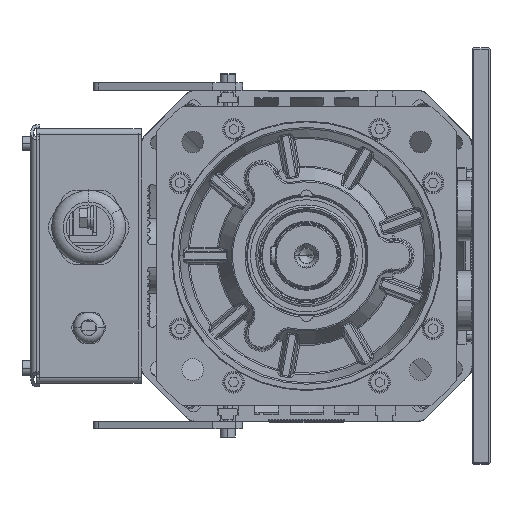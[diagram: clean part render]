
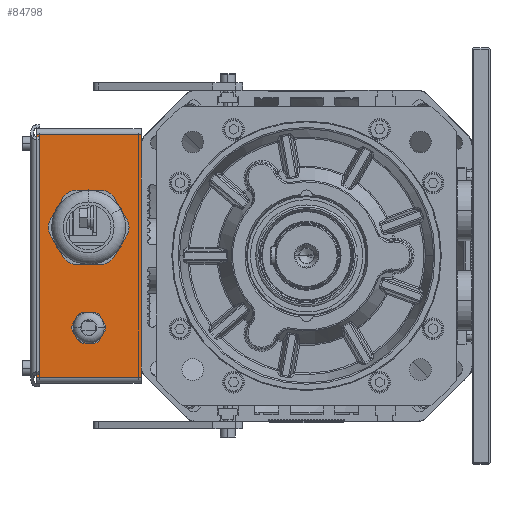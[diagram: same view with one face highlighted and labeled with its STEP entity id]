
A CAD part, left-side view. The second image highlights one B-rep face of the part: STEP entity #84798.
In plain terms, the highlighted planar face has unit normal (-1, 0, 0).
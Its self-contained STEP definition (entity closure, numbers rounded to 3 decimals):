
#82622=DIRECTION('',(0.,0.,1.));
#82623=VECTOR('',#82622,162.);
#82624=CARTESIAN_POINT('',(186.,110.5,-81.));
#82625=LINE('',#82624,#82623);
#82899=CARTESIAN_POINT('',(186.,145.5,-48.));
#82900=DIRECTION('',(-1.,0.,0.));
#82901=DIRECTION('',(0.,1.,0.));
#82902=AXIS2_PLACEMENT_3D('',#82899,#82900,#82901);
#82904=CARTESIAN_POINT('',(186.,145.5,-48.));
#82905=DIRECTION('',(-1.,0.,0.));
#82906=DIRECTION('',(0.,-1.,0.));
#82907=AXIS2_PLACEMENT_3D('',#82904,#82905,#82906);
#82909=CARTESIAN_POINT('',(186.,145.5,19.));
#82910=DIRECTION('',(-1.,0.,0.));
#82911=DIRECTION('',(0.,1.,0.));
#82912=AXIS2_PLACEMENT_3D('',#82909,#82910,#82911);
#82914=CARTESIAN_POINT('',(186.,145.5,19.));
#82915=DIRECTION('',(-1.,0.,0.));
#82916=DIRECTION('',(0.,-1.,0.));
#82917=AXIS2_PLACEMENT_3D('',#82914,#82915,#82916);
#82919=DIRECTION('',(0.,0.,1.));
#82920=VECTOR('',#82919,162.);
#82921=CARTESIAN_POINT('',(186.,180.5,-81.));
#82922=LINE('',#82921,#82920);
#83841=DIRECTION('',(0.,-1.,0.));
#83842=VECTOR('',#83841,70.);
#83843=CARTESIAN_POINT('',(186.,180.5,-81.));
#83844=LINE('',#83843,#83842);
#83861=DIRECTION('',(0.,1.,0.));
#83862=VECTOR('',#83861,70.);
#83863=CARTESIAN_POINT('',(186.,110.5,81.));
#83864=LINE('',#83863,#83862);
#84181=CARTESIAN_POINT('',(186.,155.5,-48.));
#84182=CARTESIAN_POINT('',(186.,135.5,-48.));
#84183=VERTEX_POINT('',#84181);
#84184=VERTEX_POINT('',#84182);
#84185=CARTESIAN_POINT('',(186.,170.5,19.));
#84186=CARTESIAN_POINT('',(186.,120.5,19.));
#84187=VERTEX_POINT('',#84185);
#84188=VERTEX_POINT('',#84186);
#84333=CARTESIAN_POINT('',(186.,110.5,-81.));
#84335=VERTEX_POINT('',#84333);
#84346=CARTESIAN_POINT('',(186.,110.5,81.));
#84348=VERTEX_POINT('',#84346);
#84381=CARTESIAN_POINT('',(186.,180.5,81.));
#84383=VERTEX_POINT('',#84381);
#84394=CARTESIAN_POINT('',(186.,180.5,-81.));
#84396=VERTEX_POINT('',#84394);
#84773=CARTESIAN_POINT('',(186.,110.5,-85.));
#84774=DIRECTION('',(-1.,0.,0.));
#84775=DIRECTION('',(0.,0.,1.));
#84776=AXIS2_PLACEMENT_3D('',#84773,#84774,#84775);
#84777=PLANE('',#84776);
#84779=ORIENTED_EDGE('',*,*,#84778,.F.);
#84780=ORIENTED_EDGE('',*,*,#84580,.F.);
#84782=ORIENTED_EDGE('',*,*,#84781,.F.);
#84783=ORIENTED_EDGE('',*,*,#84640,.T.);
#84784=EDGE_LOOP('',(#84779,#84780,#84782,#84783));
#84785=FACE_OUTER_BOUND('',#84784,.F.);
#84787=ORIENTED_EDGE('',*,*,#84786,.T.);
#84789=ORIENTED_EDGE('',*,*,#84788,.T.);
#84790=EDGE_LOOP('',(#84787,#84789));
#84791=FACE_BOUND('',#84790,.F.);
#84793=ORIENTED_EDGE('',*,*,#84792,.T.);
#84795=ORIENTED_EDGE('',*,*,#84794,.T.);
#84796=EDGE_LOOP('',(#84793,#84795));
#84797=FACE_BOUND('',#84796,.F.);
#84798=ADVANCED_FACE('',(#84785,#84791,#84797),#84777,.T.);
#82903=CIRCLE('',#82902,10.);
#82908=CIRCLE('',#82907,10.);
#82913=CIRCLE('',#82912,25.);
#82918=CIRCLE('',#82917,25.);
#84580=EDGE_CURVE('',#84335,#84348,#82625,.T.);
#84640=EDGE_CURVE('',#84396,#84383,#82922,.T.);
#84778=EDGE_CURVE('',#84348,#84383,#83864,.T.);
#84781=EDGE_CURVE('',#84396,#84335,#83844,.T.);
#84786=EDGE_CURVE('',#84187,#84188,#82913,.T.);
#84788=EDGE_CURVE('',#84188,#84187,#82918,.T.);
#84792=EDGE_CURVE('',#84183,#84184,#82903,.T.);
#84794=EDGE_CURVE('',#84184,#84183,#82908,.T.);
